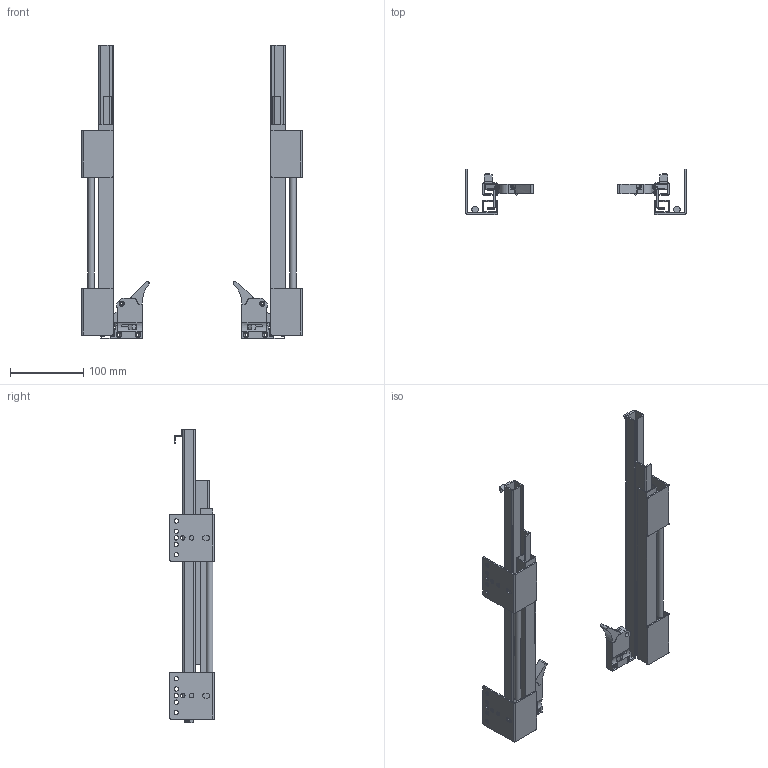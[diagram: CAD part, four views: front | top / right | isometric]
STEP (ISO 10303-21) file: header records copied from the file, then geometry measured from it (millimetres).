
FILE_DESCRIPTION(/* description */ (''),/* implementation_level */ '2;1');
FILE_NAME(/* name */ 'C:\Users\dmitruk\Documents\WORK\НАПРАВЛЯЮЩИЕ\Скрытого монтажа\SLIM SLIDE Направляющие скрытого монтажа полного выдвижения (18 мм)\SLIM SLIDE Направляющие скрытого монтажа полного выдвижения (18 мм)-400.stp',/* time_stamp */ '2022-04-22T11:22:09+03:00',/* author */ ('dmitruk'),/* organization */ (''),/* preprocessor_version */ 'ST-DEVELOPER v16.5',/* originating_system */ 'Autodesk Inventor 2017',/* authorisation */ '');
FILE_SCHEMA (('AUTOMOTIVE_DESIGN { 1 0 10303 214 3 1 1 }'));
Length unit declared in the file: millimetre
Products named in the file (9): SLIM SLIDE Направляющие \X2\0441
043A0440044B0442043E0433043E\X0\ монтажа 
полного \X2\0432044B04340432043804360435043D
0438044F\X0\ (18 мм); Направляющие \X2\0441043A
0440044B0442043E0433043E\X0\ монтажа \X2\043F
043E043B043D043E0433043E\X0\ \X2\0432044B04340432043804360435043D0438044F
\X0\ slim CR slim(18 mm); Направляющие \X2\0441043A
0440044B0442043E0433043E\X0\ монтажа \X2\043F
043E043B043D043E0433043E\X0\ \X2\0432044B04340432043804360435043D0438044F
\X0\ slim DR slim; Направляющие \X2\0441043A
0440044B0442043E0433043E\X0\ монтажа \X2\043F
043E043B043D043E0433043E\X0\ \X2\0432044B04340432043804360435043D0438044F
\X0\ slim DW slim slide; Крепление \X2\0434043B
044F\X0\ полного SLIM R; Направляющие \X2\0441043A
0440044B0442043E0433043E\X0\ монтажа \X2\043F
043E043B043D043E0433043E\X0\ \X2\0432044B04340432043804360435043D0438044F
\X0\ slim CL slim(18 mm); Крепление \X2\0434043B
044F\X0\ полного SLIM L; Направляющие \X2\0441043A
0440044B0442043E0433043E\X0\ монтажа \X2\043F
043E043B043D043E0433043E\X0\ \X2\0432044B04340432043804360435043D0438044F
\X0\ slim DW slim slide_1; Направляющие \X2\0441043A
0440044B0442043E0433043E\X0\ монтажа \X2\043F
043E043B043D043E0433043E\X0\ \X2\0432044B04340432043804360435043D0438044F
\X0\ slim DL slim
Assembly tree (8 placements, depth 2):
  SLIM SLIDE Направляющие \X2\0441
043A0440044B0442043E0433043E\X0\ монтажа 
полного \X2\0432044B04340432043804360435043D
0438044F\X0\ (18 мм)
    Направляющие \X2\0441043A
0440044B0442043E0433043E\X0\ монтажа \X2\043F
043E043B043D043E0433043E\X0\ \X2\0432044B04340432043804360435043D0438044F
\X0\ slim CR slim(18 mm)
    Направляющие \X2\0441043A
0440044B0442043E0433043E\X0\ монтажа \X2\043F
043E043B043D043E0433043E\X0\ \X2\0432044B04340432043804360435043D0438044F
\X0\ slim DR slim
    Направляющие \X2\0441043A
0440044B0442043E0433043E\X0\ монтажа \X2\043F
043E043B043D043E0433043E\X0\ \X2\0432044B04340432043804360435043D0438044F
\X0\ slim DW slim slide
    Крепление \X2\0434043B
044F\X0\ полного SLIM R
    Направляющие \X2\0441043A
0440044B0442043E0433043E\X0\ монтажа \X2\043F
043E043B043D043E0433043E\X0\ \X2\0432044B04340432043804360435043D0438044F
\X0\ slim CL slim(18 mm)
    Крепление \X2\0434043B
044F\X0\ полного SLIM L
    Направляющие \X2\0441043A
0440044B0442043E0433043E\X0\ монтажа \X2\043F
043E043B043D043E0433043E\X0\ \X2\0432044B04340432043804360435043D0438044F
\X0\ slim DW slim slide_1
    Направляющие \X2\0441043A
0440044B0442043E0433043E\X0\ монтажа \X2\043F
043E043B043D043E0433043E\X0\ \X2\0432044B04340432043804360435043D0438044F
\X0\ slim DL slim
Bounding box: 300 x 61 x 400 mm (x, y, z)
Volume: 289566.7 mm3; surface area: 296417.7 mm2
Topology: 16 solids, 16 shells, 520 faces, 1468 edges, 972 vertices
Faces by surface type: plane 368, cylinder 148, cone 4
Full cylindrical faces by diameter (mm): 4 x10, 6 x28, 7 x2, 9.002 x2
Entity records: 16757 total; most frequent: CARTESIAN_POINT 2895, DIRECTION 2766, ORIENTED_EDGE 2764, EDGE_CURVE 1382, LINE 1056, VECTOR 1056, VERTEX_POINT 932, AXIS2_PLACEMENT_3D 855
